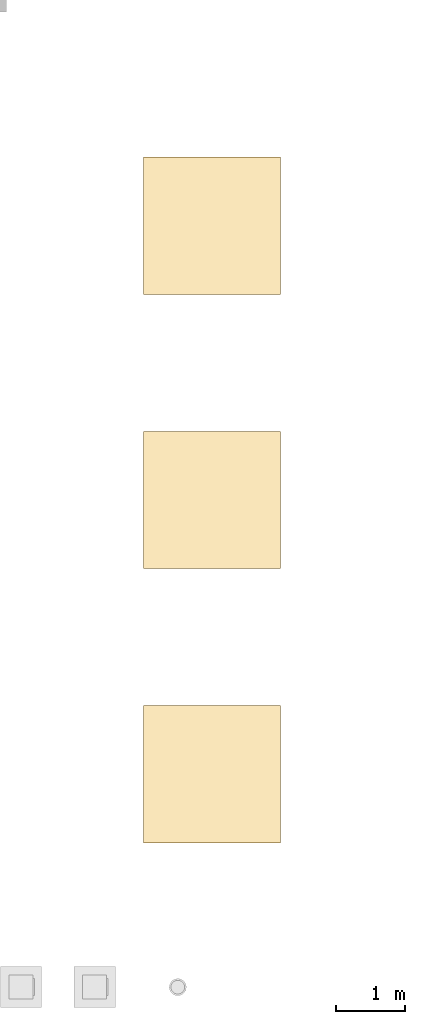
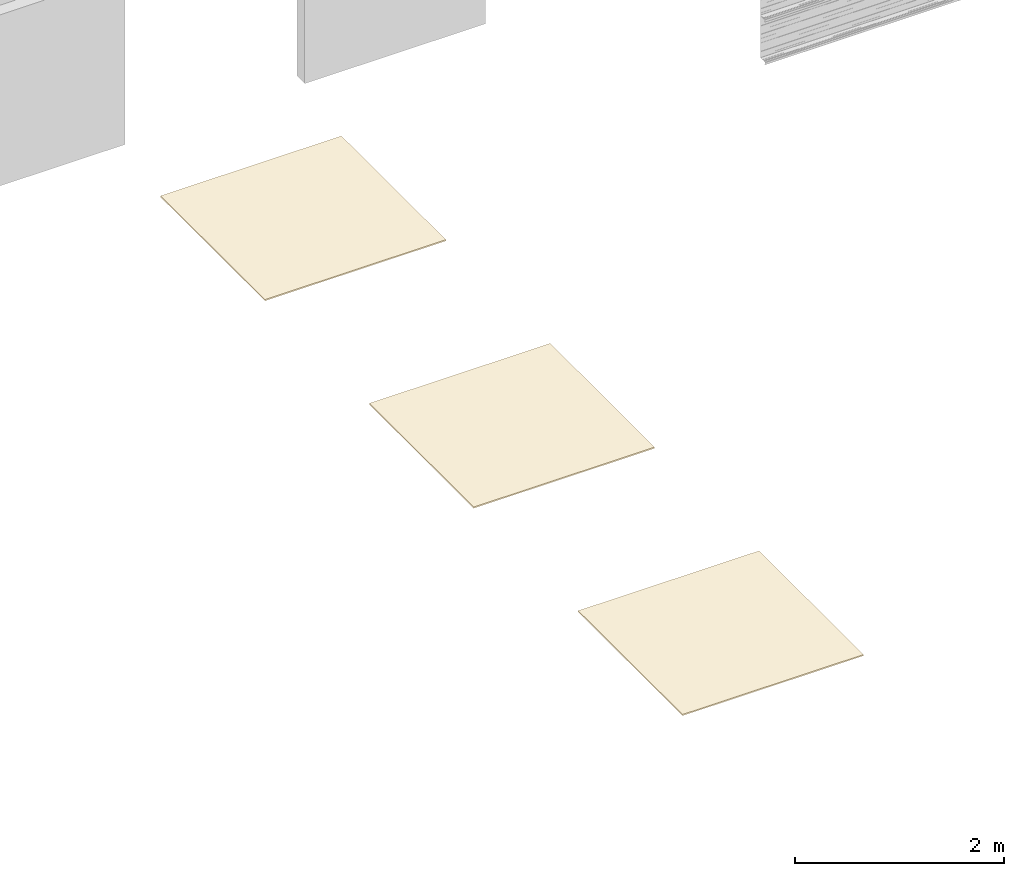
# One storey, part 10 of 14: 3 coverings.
"""IFC2X3 building model written with IfcOpenShell, lengths in millimetres."""

from ifc_helpers import new_model, entity, si_unit, converted_unit, derived_unit, direction, frame, frame_2d, origin, place, context, subcontext, project, spatial, rectangle, extrude, material, layer, layer_set, layer_usage, element, save


model = new_model("IFC2X3")

# Units and contexts
model_context = context("Model", 3, precision=0.01, world=origin(), true_north=direction((6.12303176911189e-17, 1.0)))
context_of_model = context(None, 3, precision=0.01, world=origin(), true_north=direction((6.12303176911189e-17, 1.0)))
body_context = subcontext(model_context, "Body", "Model", "MODEL_VIEW")
ifc_project = project(units=[si_unit("LENGTHUNIT", "METRE", prefix="MILLI"), si_unit("AREAUNIT", "SQUARE_METRE"), si_unit("VOLUMEUNIT", "CUBIC_METRE"), converted_unit("PLANEANGLEUNIT", "DEGREE", entity("IfcRatioMeasure", 0.0174532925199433), si_unit("PLANEANGLEUNIT", "RADIAN"), dimensions=[0, 0, 0, 0, 0, 0, 0]), si_unit("MASSUNIT", "GRAM", prefix="KILO"), si_unit("TIMEUNIT", "SECOND"), si_unit("FREQUENCYUNIT", "HERTZ"), si_unit("THERMODYNAMICTEMPERATUREUNIT", "KELVIN"), derived_unit("THERMALTRANSMITTANCEUNIT", [(si_unit("MASSUNIT", "GRAM", prefix="KILO"), 1), (si_unit("THERMODYNAMICTEMPERATUREUNIT", "KELVIN"), -1), (si_unit("TIMEUNIT", "SECOND"), -3)]), derived_unit("VOLUMETRICFLOWRATEUNIT", [(si_unit("LENGTHUNIT", "METRE"), 3), (si_unit("TIMEUNIT", "SECOND"), -1)]), si_unit("ELECTRICCURRENTUNIT", "AMPERE"), si_unit("ELECTRICVOLTAGEUNIT", "VOLT"), si_unit("POWERUNIT", "WATT")], contexts=[model_context, context_of_model])

# Site, building, storey
site_placement = place(None, origin())
site = spatial("IfcSite", under=ifc_project, at=site_placement, Name="Surface", CompositionType="ELEMENT")
building_placement = place(site_placement, origin())
building = spatial("IfcBuilding", under=site, at=building_placement, CompositionType="ELEMENT")
storey_placement = place(building_placement, origin())
storey = spatial("IfcBuildingStorey", under=building, at=storey_placement, Name="00_begane grond", CompositionType="ELEMENT", Elevation=0.0)

# Coverings
ifc_material_1 = material(Name="45_plafond_systeemplafond_600x600_wit")
ifc_layer_1 = layer(ifc_material_1, 15.0)
ifc_layer_set_1 = layer_set([ifc_layer_1], Name="Compound Ceiling:45_CEI_systeemplafond_600x600_wit")
ifc_layer_usage_1 = layer_usage(ifc_layer_set_1, "AXIS3", "NEGATIVE", 0.0)
covering_1_placement = place(storey_placement, frame((4000.0, -25266.4613273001, 2600.0)))
element("IfcCovering", 1, at=covering_1_placement, inside=storey, material=ifc_layer_usage_1, Name="Compound Ceiling:45_CEI_systeemplafond_600x600_wit", ObjectType="Compound Ceiling:45_CEI_systeemplafond_600x600_wit", PredefinedType="CEILING", context=body_context, shape_type="SweptSolid", body=[
    extrude(rectangle(XDim=2000.0, YDim=2000.0, at=frame_2d((5.11590769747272e-13, -2.1600499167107e-12), x_axis=(1.0, 0.0))), frame((1000.0, 1000.0, 0.0), z_axis=(0.0, 0.0, 1.0), x_axis=(-1.0, 0.0, 0.0)), (0.0, 0.0, 1.0), 14.9999999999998),
])
ifc_material_2 = material(Name="45_plafond_systeemplafond_600x600_donkerrood")
ifc_layer_2 = layer(ifc_material_2, 15.0)
ifc_layer_set_2 = layer_set([ifc_layer_2], Name="Compound Ceiling:45_CEI_systeemplafond_600x600_rood")
ifc_layer_usage_2 = layer_usage(ifc_layer_set_2, "AXIS3", "NEGATIVE", 0.0)
covering_2_placement = place(storey_placement, frame((4000.0, -21266.4613273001, 2600.0)))
element("IfcCovering", 2, at=covering_2_placement, inside=storey, material=ifc_layer_usage_2, Name="Compound Ceiling:45_CEI_systeemplafond_600x600_rood", ObjectType="Compound Ceiling:45_CEI_systeemplafond_600x600_rood", PredefinedType="CEILING", context=body_context, shape_type="SweptSolid", body=[
    extrude(rectangle(XDim=2000.0, YDim=2000.0, at=frame_2d((5.11590769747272e-13, -2.1600499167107e-12), x_axis=(1.0, 0.0))), frame((1000.0, 1000.0, 0.0), z_axis=(0.0, 0.0, 1.0), x_axis=(-1.0, 0.0, 0.0)), (0.0, 0.0, 1.0), 14.9999999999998),
])
ifc_material_3 = material(Name="45_plafond_systeemplafond_1200x600_wit")
ifc_layer_3 = layer(ifc_material_3, 15.0)
ifc_layer_set_3 = layer_set([ifc_layer_3], Name="Compound Ceiling:45_CEI_systeemplafond_1200x600_wit")
ifc_layer_usage_3 = layer_usage(ifc_layer_set_3, "AXIS3", "NEGATIVE", 0.0)
covering_3_placement = place(storey_placement, frame((4000.0, -29266.4613273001, 2600.0)))
element("IfcCovering", 3, at=covering_3_placement, inside=storey, material=ifc_layer_usage_3, Name="Compound Ceiling:45_CEI_systeemplafond_1200x600_wit", ObjectType="Compound Ceiling:45_CEI_systeemplafond_1200x600_wit", PredefinedType="CEILING", context=body_context, shape_type="SweptSolid", body=[
    extrude(rectangle(XDim=2000.0, YDim=2000.0, at=frame_2d((5.11590769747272e-13, -2.1600499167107e-12), x_axis=(1.0, 0.0))), frame((1000.0, 1000.0, 0.0), z_axis=(0.0, 0.0, 1.0), x_axis=(-1.0, 0.0, 0.0)), (0.0, 0.0, 1.0), 14.9999999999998),
])

save(model, "model.ifc")
